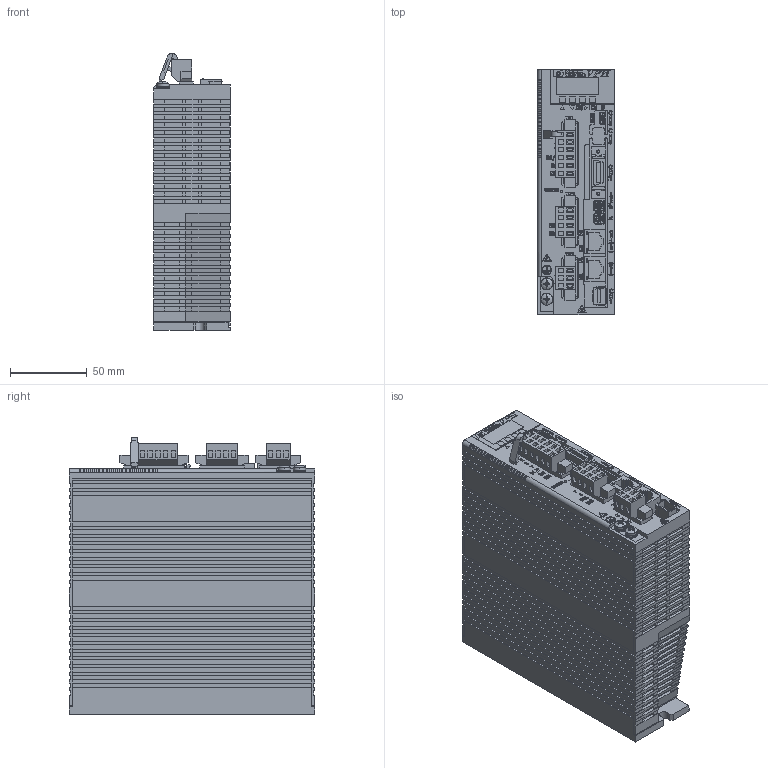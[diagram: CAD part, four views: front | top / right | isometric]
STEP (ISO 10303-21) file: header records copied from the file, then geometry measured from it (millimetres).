
FILE_DESCRIPTION (( 'STEP AP214' ), '1' );
FILE_NAME ('NCR-HD_Serise(051-401)#SE-78010A.STEP', '2020-03-13T07:42:56', ( '' ), ( '' ), 'SwSTEP 2.0', 'SolidWorks 2018', '' );
FILE_SCHEMA (( 'AUTOMOTIVE_DESIGN' ));
Length unit declared in the file: millimetre
Products named in the file (1): NCR-HD_Serise(051-401)#SE-78010A
Bounding box: 50 x 160 x 180.47 mm (x, y, z)
Volume: 1234191.1 mm3; surface area: 129948.9 mm2
Topology: 5 solids, 5 shells, 6339 faces, 17878 edges, 11846 vertices
Faces by surface type: plane 5372, bspline 500, cylinder 422, cone 33, torus 8, sphere 4
Entity records: 230224 total; most frequent: CARTESIAN_POINT 65698, ORIENTED_EDGE 35748, DIRECTION 29335, EDGE_CURVE 17874, LINE 15765, VECTOR 15765, VERTEX_POINT 11846, AXIS2_PLACEMENT_3D 6785
